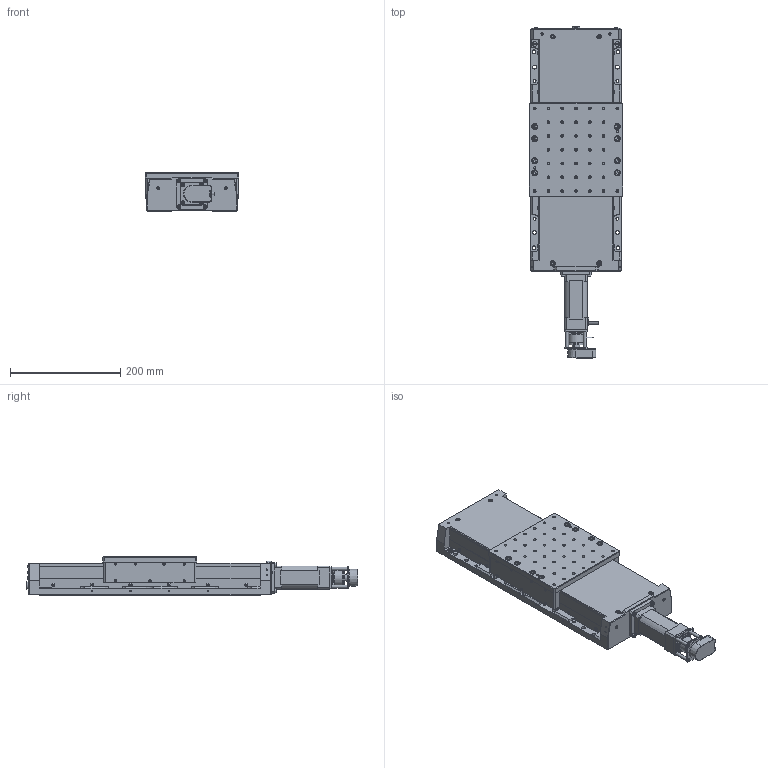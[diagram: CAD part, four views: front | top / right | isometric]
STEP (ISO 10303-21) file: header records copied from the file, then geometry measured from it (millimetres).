
FILE_DESCRIPTION(/* description */ (''),/* implementation_level */ '2;1');
FILE_NAME(/* name */ 'U:\KONSTRUKTORIAI\DOKUMENTACIJA\8\8MT165-200-B43\STEP\8MT165-200-B43 SB.stp',/* time_stamp */ '2018-05-16T13:31:03+03:00',/* author */ ('dsgn36'),/* organization */ (''),/* preprocessor_version */ 'ST-DEVELOPER v15.2',/* originating_system */ 'Autodesk Inventor 2014',/* authorisation */ '');
FILE_SCHEMA (('AUTOMOTIVE_DESIGN { 1 0 10303 214 3 1 1 }'));
Length unit declared in the file: millimetre
Products named in the file (1): 8MT165-200-B43 SB_Shrinkwrap_1
Bounding box: 170.2 x 602.09 x 70 mm (x, y, z)
Volume: 4329345 mm3; surface area: 351378.3 mm2
Topology: 1 solids, 1 shells, 1412 faces, 3632 edges, 2346 vertices
Faces by surface type: plane 858, cylinder 326, cone 128, torus 58, bspline 36, sphere 6
Full cylindrical faces by diameter (mm): 0.56 x2, 1.16 x2, 1.7 x8, 2.013 x2, 2.459 x16, 2.5 x4, 3 x41, 3.242 x4, 3.4 x2, 4 x4, 4.917 x47, 5 x1, 5.5 x8, 5.7 x18, 7 x21, 8 x2, 9 x2, 10 x8, 11 x8, 13.5 x1, 14 x1, 14.5 x1, 27 x2, 27.6 x1, 28 x3
Entity records: 42068 total; most frequent: CARTESIAN_POINT 8765, DIRECTION 6464, ORIENTED_EDGE 6232, EDGE_CURVE 3115, AXIS2_PLACEMENT_3D 2318, VERTEX_POINT 2187, EDGE_LOOP 2027, LINE 1828
